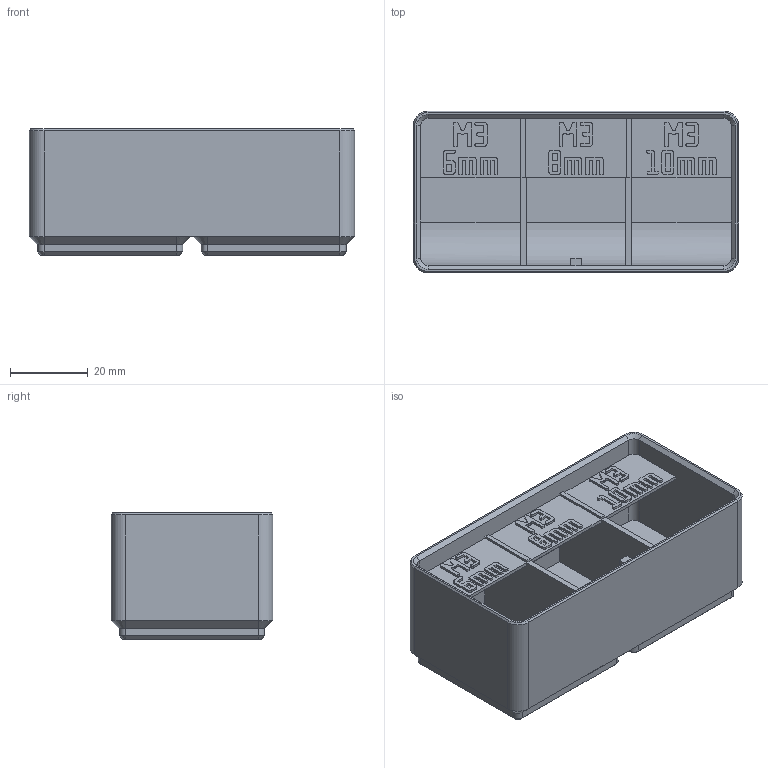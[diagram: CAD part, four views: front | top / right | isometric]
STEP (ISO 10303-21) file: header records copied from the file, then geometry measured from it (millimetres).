
FILE_DESCRIPTION(('Open CASCADE Model'),'2;1');
FILE_NAME('Open CASCADE Shape Model','2026-11-03T16:31:45',('Author'),( 'Open CASCADE'),'Open CASCADE STEP processor 8.0','build123d', 'Unknown');
FILE_SCHEMA(('AUTOMOTIVE_DESIGN { 1 0 10303 214 1 1 1 1 }'));
Products named in the file (1): COMPOUND
Bounding box: 83.5 x 41.5 x 32.4 mm (x, y, z)
Volume: 43321 mm3; surface area: 24257.3 mm2
Topology: 1 solids, 1 shells, 1665 faces, 4864 edges, 3222 vertices
Faces by surface type: plane 1620, cone 24, cylinder 21
Entity records: 114218 total; most frequent: CARTESIAN_POINT 23066, DIRECTION 14722, LINE 11246, VECTOR 11246, ORIENTED_EDGE 9728, PCURVE 9728, DEFINITIONAL_REPRESENTATION 9728, EDGE_CURVE 4864
